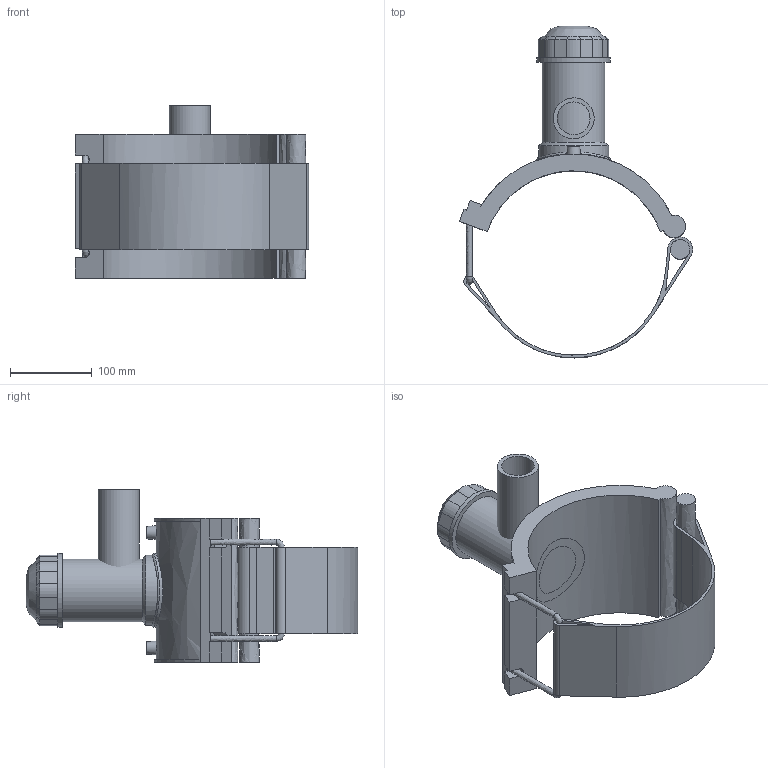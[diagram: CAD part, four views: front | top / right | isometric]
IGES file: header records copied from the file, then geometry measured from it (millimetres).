
Global section: file name: 4963P4225050; native system: Autodesk Inventor 2019; preprocessor: unknown; author: KIM; date: 20220317.113238; units: millimetre
Bounding box: 284.83 x 405.37 x 211 mm (x, y, z)
Volume: 1968419 mm3; surface area: 390863.3 mm2
Topology: 3 solids, 3 shells, 118 faces, 303 edges, 197 vertices
Faces by surface type: bspline 118
